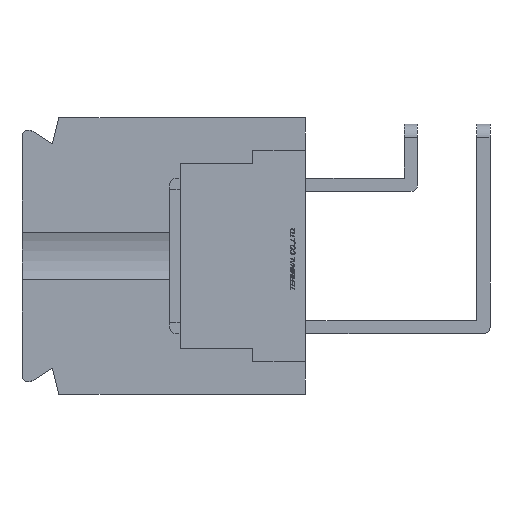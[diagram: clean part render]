
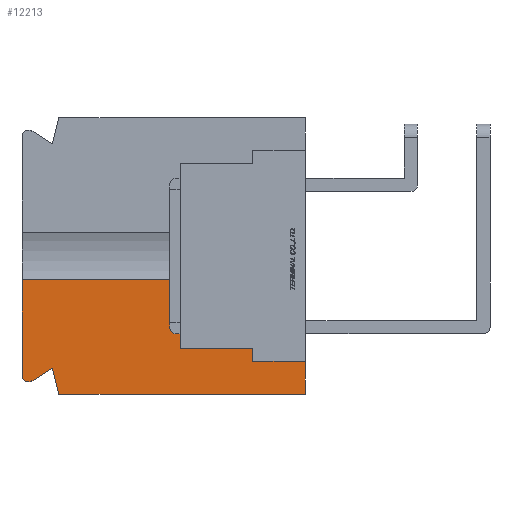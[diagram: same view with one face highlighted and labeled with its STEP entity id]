
A CAD part, left-side view. The second image highlights one B-rep face of the part: STEP entity #12213.
In plain terms, the highlighted planar face has unit normal (-1, 0, 0).
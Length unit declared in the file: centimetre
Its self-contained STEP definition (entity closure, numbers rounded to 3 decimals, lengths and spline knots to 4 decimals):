
#536=CIRCLE('',#20485,0.05);
#943=VECTOR('',#13774,1.);
#1363=VECTOR('',#14341,1.);
#1365=VECTOR('',#14344,1.);
#1367=VECTOR('',#14347,1.);
#1369=VECTOR('',#14350,1.);
#1370=VECTOR('',#14351,1.);
#1371=VECTOR('',#14354,1.);
#1372=VECTOR('',#14355,1.);
#1373=VECTOR('',#14356,1.);
#1374=VECTOR('',#14357,1.);
#2400=LINE('',#16371,#943);
#2820=LINE('',#17912,#1363);
#2822=LINE('',#17916,#1365);
#2824=LINE('',#17920,#1367);
#2826=LINE('',#17924,#1369);
#2827=LINE('',#17926,#1370);
#2828=LINE('',#17930,#1371);
#2829=LINE('',#17932,#1372);
#2830=LINE('',#17934,#1373);
#2831=LINE('',#17936,#1374);
#3843=VERTEX_POINT('',#16370);
#3844=VERTEX_POINT('',#16372);
#4197=VERTEX_POINT('',#17913);
#4198=VERTEX_POINT('',#17917);
#4199=VERTEX_POINT('',#17921);
#4200=VERTEX_POINT('',#17925);
#4201=VERTEX_POINT('',#17927);
#4202=VERTEX_POINT('',#17929);
#4203=VERTEX_POINT('',#17931);
#4204=VERTEX_POINT('',#17933);
#4205=VERTEX_POINT('',#17935);
#5241=EDGE_CURVE('',#3844,#3843,#2400,.T.);
#5773=EDGE_CURVE('',#4197,#3844,#2820,.T.);
#5775=EDGE_CURVE('',#4198,#4197,#2822,.T.);
#5777=EDGE_CURVE('',#4199,#4198,#2824,.T.);
#5779=EDGE_CURVE('',#3843,#4200,#2826,.T.);
#5780=EDGE_CURVE('',#4201,#4200,#2827,.T.);
#5781=EDGE_CURVE('',#4202,#4201,#536,.T.);
#5782=EDGE_CURVE('',#4203,#4202,#2828,.T.);
#5783=EDGE_CURVE('',#4204,#4203,#2829,.T.);
#5784=EDGE_CURVE('',#4205,#4204,#2830,.T.);
#5785=EDGE_CURVE('',#4199,#4205,#2831,.T.);
#8565=ORIENTED_EDGE('',*,*,#5777,.T.);
#8566=ORIENTED_EDGE('',*,*,#5775,.T.);
#8567=ORIENTED_EDGE('',*,*,#5773,.T.);
#8568=ORIENTED_EDGE('',*,*,#5241,.T.);
#8569=ORIENTED_EDGE('',*,*,#5779,.T.);
#8570=ORIENTED_EDGE('',*,*,#5780,.F.);
#8571=ORIENTED_EDGE('',*,*,#5781,.F.);
#8572=ORIENTED_EDGE('',*,*,#5782,.F.);
#8573=ORIENTED_EDGE('',*,*,#5783,.F.);
#8574=ORIENTED_EDGE('',*,*,#5784,.F.);
#8575=ORIENTED_EDGE('',*,*,#5785,.F.);
#10743=EDGE_LOOP('',(#8565,#8566,#8567,#8568,#8569,#8570,#8571,#8572,#8573,
#8574,#8575));
#11501=FACE_BOUND('',#10743,.T.);
#12213=ADVANCED_FACE('',(#11501),#12800,.F.);
#12800=PLANE('',#20484);
#13774=DIRECTION('',(0.,0.,1.));
#14341=DIRECTION('',(0.,1.,0.));
#14344=DIRECTION('',(0.,0.,1.));
#14347=DIRECTION('',(0.,1.,0.));
#14349=DIRECTION('',(1.,0.,0.));
#14350=DIRECTION('',(0.,1.,0.));
#14351=DIRECTION('',(0.,0.,1.));
#14352=DIRECTION('',(1.,0.,0.));
#14353=DIRECTION('',(0.,0.,-0.05));
#14354=DIRECTION('',(0.,0.844,-0.536));
#14355=DIRECTION('',(0.,0.243,0.97));
#14356=DIRECTION('',(0.,1.,0.));
#14357=DIRECTION('',(0.,0.,-1.));
#16370=CARTESIAN_POINT('',(-0.65,0.,-0.1808));
#16371=CARTESIAN_POINT('',(-0.65,0.,0.));
#16372=CARTESIAN_POINT('',(-0.65,0.,-0.7));
#17912=CARTESIAN_POINT('',(-0.65,-0.0716,-0.7));
#17913=CARTESIAN_POINT('',(-0.65,-0.55,-0.7));
#17916=CARTESIAN_POINT('',(-0.65,-0.55,-0.375));
#17917=CARTESIAN_POINT('',(-0.65,-0.55,-0.8));
#17920=CARTESIAN_POINT('',(-0.65,-0.3091,-0.8));
#17921=CARTESIAN_POINT('',(-0.65,-0.95,-0.8));
#17923=CARTESIAN_POINT('',(-0.65,0.1319,0.0001));
#17924=CARTESIAN_POINT('',(-0.65,0.6,-0.1808));
#17925=CARTESIAN_POINT('',(-0.65,1.2,-0.1808));
#17926=CARTESIAN_POINT('',(-0.65,1.2,-0.9049));
#17927=CARTESIAN_POINT('',(-0.65,1.2,-0.9049));
#17928=CARTESIAN_POINT('',(-0.65,1.15,-0.9049));
#17929=CARTESIAN_POINT('',(-0.65,1.1242,-0.9478));
#17930=CARTESIAN_POINT('',(-0.65,0.97,-0.8499));
#17931=CARTESIAN_POINT('',(-0.65,0.97,-0.8499));
#17932=CARTESIAN_POINT('',(-0.65,0.92,-1.0499));
#17933=CARTESIAN_POINT('',(-0.65,0.92,-1.0499));
#17934=CARTESIAN_POINT('',(-0.65,-0.95,-1.0499));
#17935=CARTESIAN_POINT('',(-0.65,-0.95,-1.0499));
#17936=CARTESIAN_POINT('',(-0.65,-0.95,1.0501));
#20484=AXIS2_PLACEMENT_3D('',#17923,#14349,$);
#20485=AXIS2_PLACEMENT_3D('',#17928,#14352,#14353);
